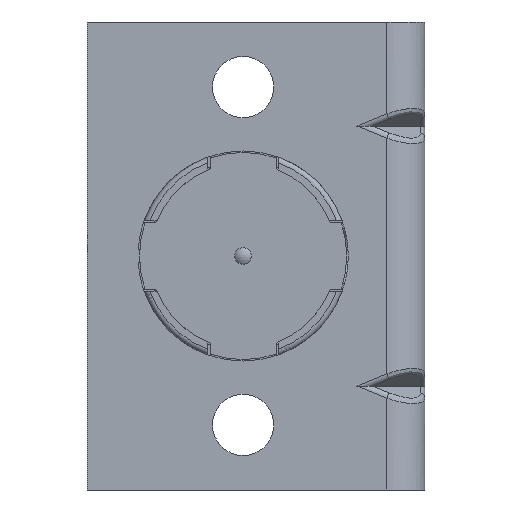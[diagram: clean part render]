
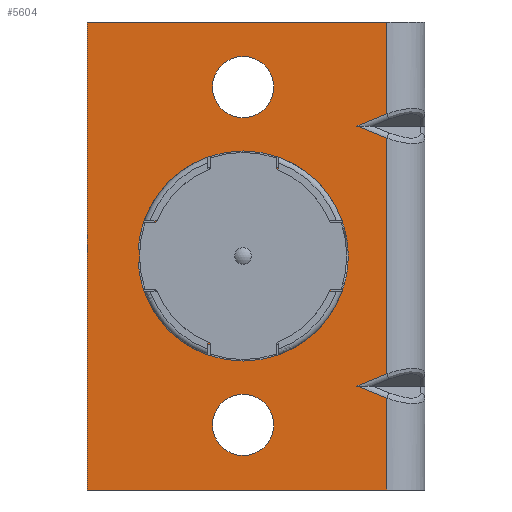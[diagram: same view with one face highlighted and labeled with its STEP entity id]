
A CAD part, left-side view. The second image highlights one B-rep face of the part: STEP entity #5604.
In plain terms, the highlighted planar face has unit normal (-1, 0, 0).
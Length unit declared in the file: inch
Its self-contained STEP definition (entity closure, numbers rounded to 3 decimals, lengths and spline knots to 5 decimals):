
#5277=CARTESIAN_POINT('',(-0.437,0.092,0.90409));
#5278=VERTEX_POINT('',#5277);
#5286=CARTESIAN_POINT('',(-0.437,0.16327,0.875));
#5287=VERTEX_POINT('',#5286);
#5288=CARTESIAN_POINT('',(-0.437,0.092,0.90409));
#5289=DIRECTION('',(0.,0.926,-0.378));
#5290=VECTOR('',#5289,0.07698);
#5291=LINE('',#5288,#5290);
#5292=EDGE_CURVE('',#5278,#5287,#5291,.T.);
#5409=CARTESIAN_POINT('',(-0.437,0.092,0.84591));
#5410=VERTEX_POINT('',#5409);
#5441=CARTESIAN_POINT('',(-0.437,0.16327,0.875));
#5442=DIRECTION('',(0.,-0.926,-0.378));
#5443=VECTOR('',#5442,0.07698);
#5444=LINE('',#5441,#5443);
#5445=EDGE_CURVE('',#5287,#5410,#5444,.T.);
#5481=CARTESIAN_POINT('',(-0.437,0.092,0.27909));
#5482=VERTEX_POINT('',#5481);
#5483=CARTESIAN_POINT('',(-0.437,0.092,0.84591));
#5484=DIRECTION('',(0.0,0.0,-1.0));
#5485=VECTOR('',#5484,0.56681);
#5486=LINE('',#5483,#5485);
#5487=EDGE_CURVE('',#5410,#5482,#5486,.T.);
#5507=CARTESIAN_POINT('',(-0.437,0.812,0.0));
#5508=DIRECTION('',(-1.0,0.0,0.0));
#5509=DIRECTION('',(0.0,-1.0,0.0));
#5510=AXIS2_PLACEMENT_3D('',#5507,#5508,#5509);
#5511=PLANE('',#5510);
#5512=ORIENTED_EDGE('',*,*,#5445,.F.);
#5513=ORIENTED_EDGE('',*,*,#5292,.F.);
#5514=CARTESIAN_POINT('',(-0.437,0.092,1.125));
#5515=VERTEX_POINT('',#5514);
#5516=CARTESIAN_POINT('',(-0.437,0.092,1.125));
#5517=DIRECTION('',(0.0,0.0,-1.0));
#5518=VECTOR('',#5517,0.22091);
#5519=LINE('',#5516,#5518);
#5520=EDGE_CURVE('',#5515,#5278,#5519,.T.);
#5521=ORIENTED_EDGE('',*,*,#5520,.F.);
#5522=CARTESIAN_POINT('',(-0.437,0.812,1.125));
#5523=VERTEX_POINT('',#5522);
#5524=CARTESIAN_POINT('',(-0.437,0.812,1.125));
#5525=DIRECTION('',(0.0,-1.0,0.0));
#5526=VECTOR('',#5525,0.72);
#5527=LINE('',#5524,#5526);
#5528=EDGE_CURVE('',#5523,#5515,#5527,.T.);
#5529=ORIENTED_EDGE('',*,*,#5528,.F.);
#5530=CARTESIAN_POINT('',(-0.437,0.812,0.0));
#5531=VERTEX_POINT('',#5530);
#5532=CARTESIAN_POINT('',(-0.437,0.812,0.0));
#5533=DIRECTION('',(0.0,0.0,1.0));
#5534=VECTOR('',#5533,1.125);
#5535=LINE('',#5532,#5534);
#5536=EDGE_CURVE('',#5531,#5523,#5535,.T.);
#5537=ORIENTED_EDGE('',*,*,#5536,.F.);
#5538=CARTESIAN_POINT('',(-0.437,0.092,0.0));
#5539=VERTEX_POINT('',#5538);
#5540=CARTESIAN_POINT('',(-0.437,0.092,0.0));
#5541=DIRECTION('',(0.0,1.0,0.0));
#5542=VECTOR('',#5541,0.72);
#5543=LINE('',#5540,#5542);
#5544=EDGE_CURVE('',#5539,#5531,#5543,.T.);
#5545=ORIENTED_EDGE('',*,*,#5544,.F.);
#5546=CARTESIAN_POINT('',(-0.437,0.092,0.22091));
#5547=VERTEX_POINT('',#5546);
#5548=CARTESIAN_POINT('',(-0.437,0.092,0.22091));
#5549=DIRECTION('',(0.0,0.0,-1.0));
#5550=VECTOR('',#5549,0.22091);
#5551=LINE('',#5548,#5550);
#5552=EDGE_CURVE('',#5547,#5539,#5551,.T.);
#5553=ORIENTED_EDGE('',*,*,#5552,.F.);
#5554=CARTESIAN_POINT('',(-0.437,0.16327,0.25));
#5555=VERTEX_POINT('',#5554);
#5556=CARTESIAN_POINT('',(-0.437,0.16327,0.25));
#5557=DIRECTION('',(0.,-0.926,-0.378));
#5558=VECTOR('',#5557,0.07698);
#5559=LINE('',#5556,#5558);
#5560=EDGE_CURVE('',#5555,#5547,#5559,.T.);
#5561=ORIENTED_EDGE('',*,*,#5560,.F.);
#5562=CARTESIAN_POINT('',(-0.437,0.092,0.27909));
#5563=DIRECTION('',(0.,0.926,-0.378));
#5564=VECTOR('',#5563,0.07698);
#5565=LINE('',#5562,#5564);
#5566=EDGE_CURVE('',#5482,#5555,#5565,.T.);
#5567=ORIENTED_EDGE('',*,*,#5566,.F.);
#5568=ORIENTED_EDGE('',*,*,#5487,.F.);
#5569=EDGE_LOOP('',(#5512,#5513,#5521,#5529,#5537,#5545,#5553,#5561,#5567,#5568));
#5570=FACE_OUTER_BOUND('',#5569,.T.);
#5571=CARTESIAN_POINT('',(-0.437,0.437,0.083));
#5572=VERTEX_POINT('',#5571);
#5573=CARTESIAN_POINT('',(-0.437,0.437,0.1565));
#5574=DIRECTION('',(1.0,0.0,0.0));
#5575=DIRECTION('',(0.0,0.0,1.0));
#5576=AXIS2_PLACEMENT_3D('',#5573,#5574,#5575);
#5577=CIRCLE('',#5576,0.0735);
#5578=EDGE_CURVE('',#5572,#5572,#5577,.T.);
#5579=ORIENTED_EDGE('',*,*,#5578,.T.);
#5580=EDGE_LOOP('',(#5579));
#5581=FACE_BOUND('',#5580,.T.);
#5582=CARTESIAN_POINT('',(-0.437,0.437,0.895));
#5583=VERTEX_POINT('',#5582);
#5584=CARTESIAN_POINT('',(-0.437,0.437,0.9685));
#5585=DIRECTION('',(1.0,0.0,0.0));
#5586=DIRECTION('',(0.0,0.0,1.0));
#5587=AXIS2_PLACEMENT_3D('',#5584,#5585,#5586);
#5588=CIRCLE('',#5587,0.0735);
#5589=EDGE_CURVE('',#5583,#5583,#5588,.T.);
#5590=ORIENTED_EDGE('',*,*,#5589,.T.);
#5591=EDGE_LOOP('',(#5590));
#5592=FACE_BOUND('',#5591,.T.);
#5593=CARTESIAN_POINT('',(-0.437,0.437,0.3675));
#5594=VERTEX_POINT('',#5593);
#5595=CARTESIAN_POINT('',(-0.437,0.437,0.5625));
#5596=DIRECTION('',(1.0,0.0,0.0));
#5597=DIRECTION('',(0.0,0.0,1.0));
#5598=AXIS2_PLACEMENT_3D('',#5595,#5596,#5597);
#5599=CIRCLE('',#5598,0.195);
#5600=EDGE_CURVE('',#5594,#5594,#5599,.T.);
#5601=ORIENTED_EDGE('',*,*,#5600,.T.);
#5602=EDGE_LOOP('',(#5601));
#5603=FACE_BOUND('',#5602,.T.);
#5604=ADVANCED_FACE('',(#5570,#5581,#5592,#5603),#5511,.T.);
